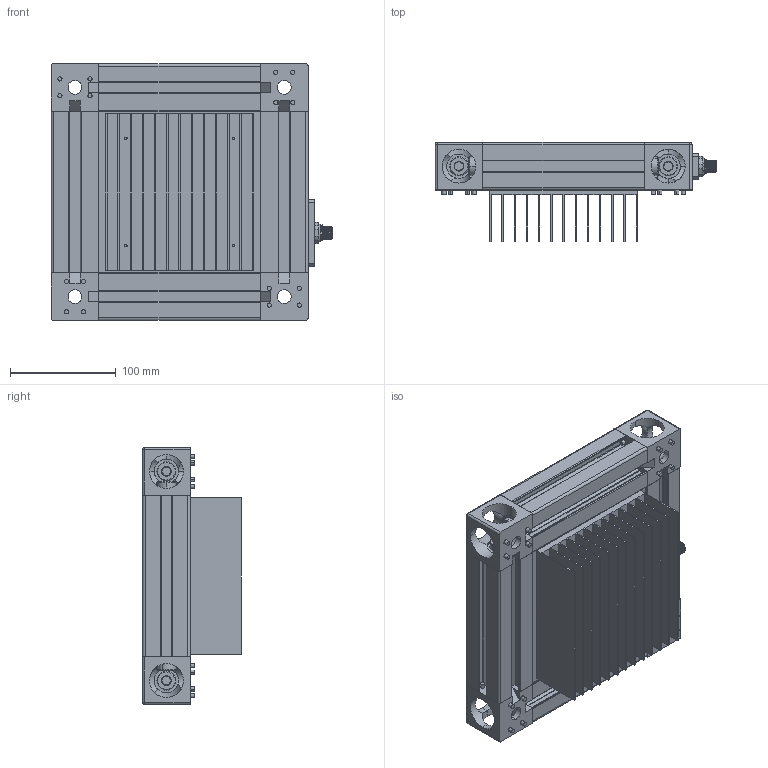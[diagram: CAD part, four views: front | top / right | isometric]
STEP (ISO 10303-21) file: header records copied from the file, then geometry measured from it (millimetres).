
FILE_DESCRIPTION (( 'STEP AP214' ), '1' );
FILE_NAME ('AL-150x150.STEP', '2016-07-26T17:20:01', ( '' ), ( '' ), 'SwSTEP 2.0', 'SolidWorks 2015', '' );
FILE_SCHEMA (( 'AUTOMOTIVE_DESIGN' ));
Length unit declared in the file: millimetre
Products named in the file (13): BP-M_BP-M-153x153; HOBL; Input Assembly; M12 Nut; Screw holder; Screws -- short_FB08.0-015; Input Mounting Plate_A; M12_Male; BC-M_153x153; EXT45_150; Bosch Gusset - 3 842 523 874; 93070A241_93070A241; AL-150x150
Assembly tree (27 placements, depth 3):
  AL-150x150
    93070A241_93070A241  x8
    Bosch Gusset - 3 842 523 874  x4
    EXT45_150  x4
    BC-M_153x153
    Input Assembly
      M12_Male
      Input Mounting Plate_A
      Screws -- short_FB08.0-015  x2
      Screw holder  x2
      M12 Nut
    HOBL
    BP-M_BP-M-153x153
Bounding box: 266.47 x 93.47 x 243 mm (x, y, z)
Volume: 999816.1 mm3; surface area: 751517.9 mm2
Topology: 26 solids, 27 shells, 2026 faces, 5462 edges, 3564 vertices
Faces by surface type: cylinder 1076, plane 700, cone 156, bspline 86, sphere 4, torus 4
Entity records: 48529 total; most frequent: CARTESIAN_POINT 26998, ORIENTED_EDGE 4142, DIRECTION 3680, EDGE_CURVE 2071, VERTEX_POINT 1359, AXIS2_PLACEMENT_3D 1308, LINE 1064, VECTOR 1064
